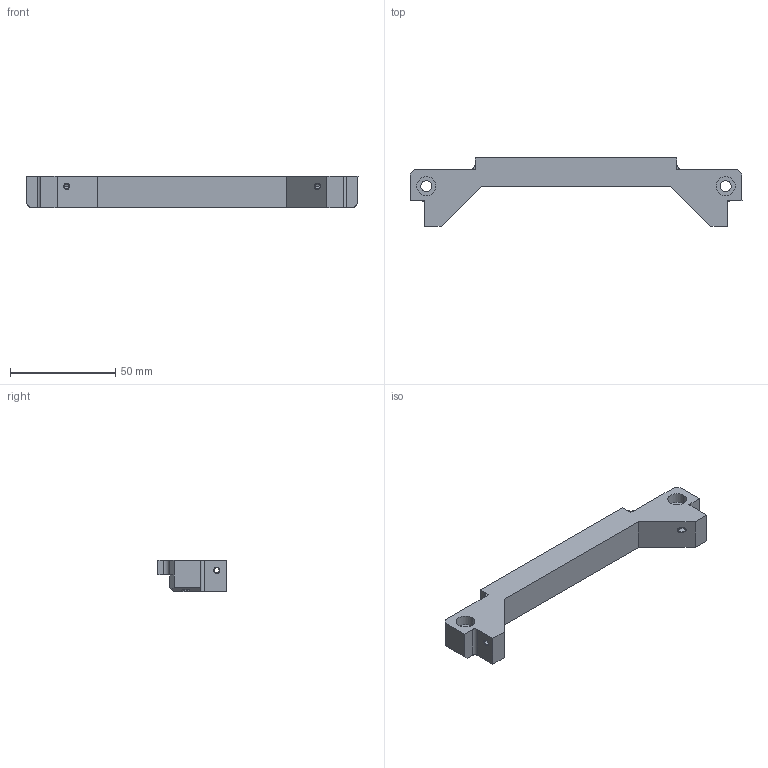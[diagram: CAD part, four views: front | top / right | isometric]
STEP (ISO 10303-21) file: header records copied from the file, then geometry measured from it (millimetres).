
FILE_DESCRIPTION(/* description */ ('VariCAD 2010-1.04 AP-203'),/* implementation_level */ '2;1');
FILE_NAME(/* name */ '0353-19-33',/* time_stamp */ '2010-01-26T13:27:12-07:00',/* author */ (''),/* organization */ (''),/* preprocessor_version */ 'ST-DEVELOPER v12',/* originating_system */ 'VariCAD 2010-1.04; kernel version (20090520)',/* authorisation */ '');
FILE_SCHEMA (('CONFIG_CONTROL_DESIGN'));
Length unit declared in the file: millimetre
Products named in the file (1): Part
Bounding box: 157.45 x 32.47 x 15 mm (x, y, z)
Volume: 30630.9 mm3; surface area: 12025.3 mm2
Topology: 3 solids, 3 shells, 81 faces, 199 edges, 126 vertices
Faces by surface type: plane 45, cylinder 32, cone 4
Entity records: 2695 total; most frequent: CARTESIAN_POINT 696, DIRECTION 405, ORIENTED_EDGE 398, EDGE_CURVE 199, AXIS2_PLACEMENT_3D 139, LINE 127, VECTOR 127, VERTEX_POINT 126
